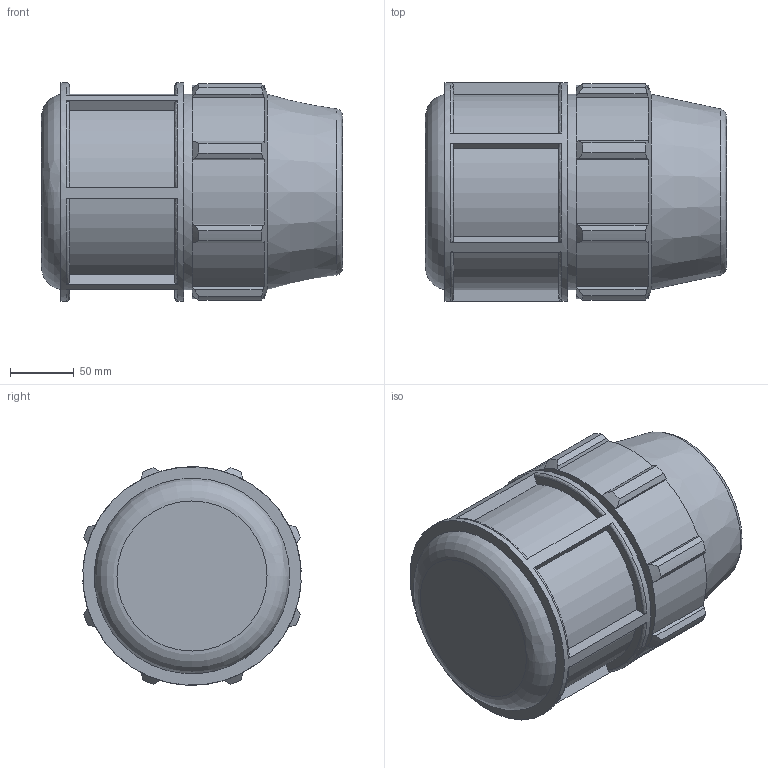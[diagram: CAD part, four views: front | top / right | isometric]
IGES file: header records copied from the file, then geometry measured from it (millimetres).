
Global section: file name: 0712M0400.ipt; native system: Autodesk Inventor 2019; preprocessor: unknown; author: Кирилл,,11,0; organization: 20170224.180708; date: 20210826.124730; units: inch
Bounding box: 236.98 x 171.88 x 172.04 mm (x, y, z)
Volume: 2320340.5 mm3; surface area: 259100.7 mm2
Topology: 1 solids, 1 shells, 115 faces, 313 edges, 210 vertices
Faces by surface type: plane 63, cylinder 24, revolution 18, cone 10
Full cylindrical faces by diameter (mm): 153.937 x1, 172.047 x1
